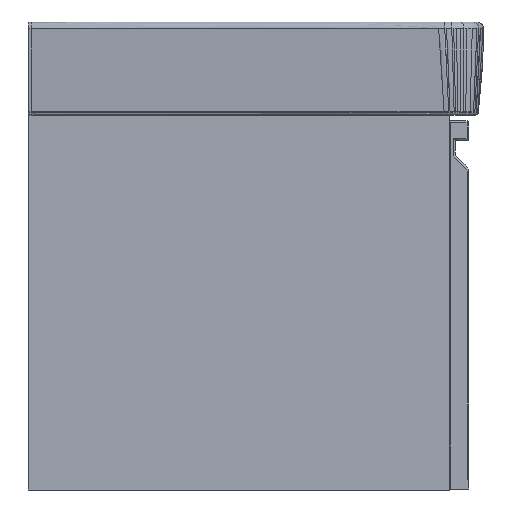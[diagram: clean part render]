
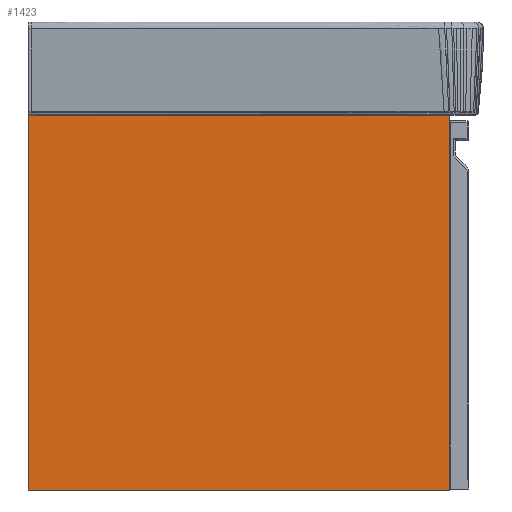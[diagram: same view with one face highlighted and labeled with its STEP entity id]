
A CAD part, left-side view. The second image highlights one B-rep face of the part: STEP entity #1423.
In plain terms, the highlighted planar face has unit normal (-1, 0, 0).
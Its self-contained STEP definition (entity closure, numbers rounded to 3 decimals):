
#1423=ADVANCED_FACE('',(#3286),#29916,.T.);
#3286=FACE_OUTER_BOUND('',#5159,.T.);
#5159=EDGE_LOOP('',(#10612,#10613,#10614,#10615));
#10612=ORIENTED_EDGE('',*,*,#18305,.F.);
#10613=ORIENTED_EDGE('',*,*,#18306,.T.);
#10614=ORIENTED_EDGE('',*,*,#18307,.T.);
#10615=ORIENTED_EDGE('',*,*,#18308,.T.);
#18305=EDGE_CURVE('',#27274,#27271,#23979,.T.);
#18306=EDGE_CURVE('',#27274,#27275,#23980,.T.);
#18307=EDGE_CURVE('',#27275,#27276,#23981,.T.);
#18308=EDGE_CURVE('',#27276,#27271,#23982,.T.);
#23979=B_SPLINE_CURVE_WITH_KNOTS('',1,(#144048,#144049),.UNSPECIFIED.,.F.,
 .F.,(2,2),(0.,430.),.UNSPECIFIED.);
#23980=B_SPLINE_CURVE_WITH_KNOTS('',1,(#144050,#144051),.UNSPECIFIED.,.F.,
 .F.,(2,2),(-387.,0.),.UNSPECIFIED.);
#23981=B_SPLINE_CURVE_WITH_KNOTS('',1,(#144052,#144053),.UNSPECIFIED.,.F.,
 .F.,(2,2),(-430.,0.),.UNSPECIFIED.);
#23982=B_SPLINE_CURVE_WITH_KNOTS('',1,(#144054,#144055),.UNSPECIFIED.,.F.,
 .F.,(2,2),(0.,387.),.UNSPECIFIED.);
#27271=VERTEX_POINT('',#144032);
#27274=VERTEX_POINT('',#144035);
#27275=VERTEX_POINT('',#144036);
#27276=VERTEX_POINT('',#144037);
#29916=PLANE('',#31180);
#31180=AXIS2_PLACEMENT_3D('',#144026,#31991,$);
#31991=DIRECTION('',(-1.,0.,0.));
#144026=CARTESIAN_POINT('',(3731.937,-4489.169,-1904.111));
#144032=CARTESIAN_POINT('',(3731.937,-4446.049,-1478.291));
#144035=CARTESIAN_POINT('',(3731.937,-4016.049,-1478.291));
#144036=CARTESIAN_POINT('',(3731.937,-4016.049,-1865.291));
#144037=CARTESIAN_POINT('',(3731.937,-4446.049,-1865.291));
#144048=CARTESIAN_POINT('',(3731.937,-4016.049,-1478.291));
#144049=CARTESIAN_POINT('',(3731.937,-4446.049,-1478.291));
#144050=CARTESIAN_POINT('',(3731.937,-4016.049,-1478.291));
#144051=CARTESIAN_POINT('',(3731.937,-4016.049,-1865.291));
#144052=CARTESIAN_POINT('',(3731.937,-4016.049,-1865.291));
#144053=CARTESIAN_POINT('',(3731.937,-4446.049,-1865.291));
#144054=CARTESIAN_POINT('',(3731.937,-4446.049,-1865.291));
#144055=CARTESIAN_POINT('',(3731.937,-4446.049,-1478.291));
